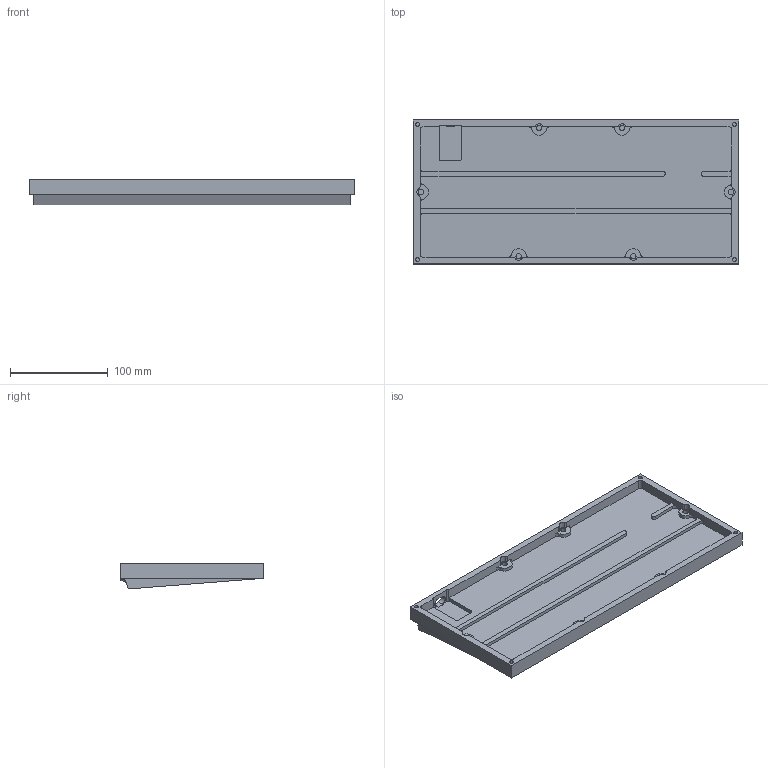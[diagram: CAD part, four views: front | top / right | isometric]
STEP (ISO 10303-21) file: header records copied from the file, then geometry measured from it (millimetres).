
FILE_DESCRIPTION(('HOOPS Exchange Step'),'2;1');
FILE_NAME('/Users/carl/Library/Containers/com.shapr3d.shapr/Data/tmp/export/temp_export','2026-01-29T18:14:06+01:00',('carl'),('Shapr3D Limited'),'HOOPS Exchange 2025.7','Shapr3D','Authorized');
FILE_SCHEMA( ('AP242_MANAGED_MODEL_BASED_3D_ENGINEERING_MIM_LF {1 0 10303 442 1 1 4}') );
Length unit declared in the file: millimetre
Products named in the file (3): USB-C; Slope; Bottom
Assembly tree (2 placements, depth 2):
  Bottom
    USB-C
    Slope
Bounding box: 333.5 x 147.5 x 26.54 mm (x, y, z)
Volume: 597219.5 mm3; surface area: 132556.2 mm2
Topology: 1 solids, 1 shells, 146 faces, 414 edges, 278 vertices
Faces by surface type: cylinder 79, plane 63, sphere 2, bspline 2
Full cylindrical faces by diameter (mm): 4.1 x4, 5.5 x6
Entity records: 5264 total; most frequent: CARTESIAN_POINT 1200, DIRECTION 898, ORIENTED_EDGE 824, EDGE_CURVE 412, AXIS2_PLACEMENT_3D 336, VERTEX_POINT 278, VECTOR 226, LINE 226
